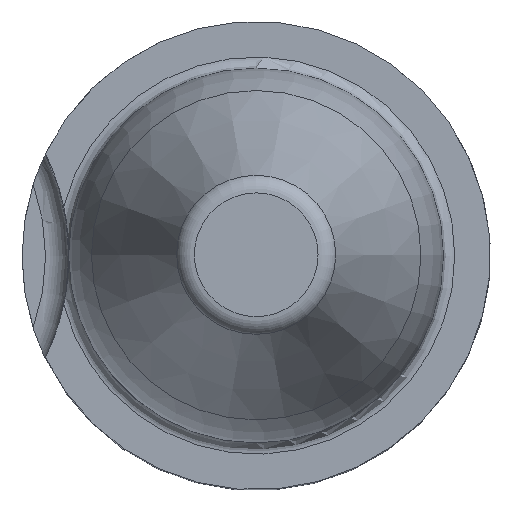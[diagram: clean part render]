
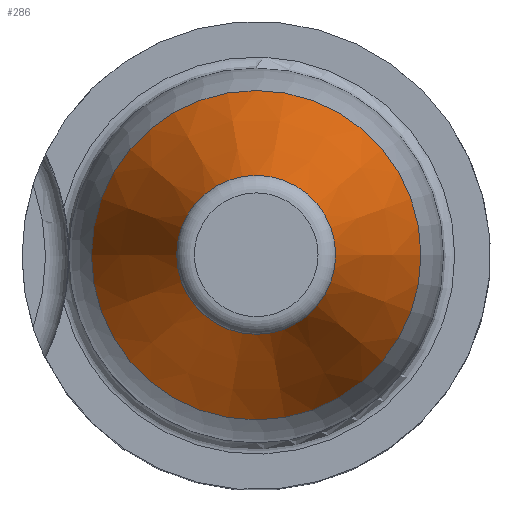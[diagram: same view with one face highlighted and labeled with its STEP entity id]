
A CAD part, top view. The second image highlights one B-rep face of the part: STEP entity #286.
In plain terms, the highlighted conical face has half-angle 20 degrees and reference radius 5.584 mm.
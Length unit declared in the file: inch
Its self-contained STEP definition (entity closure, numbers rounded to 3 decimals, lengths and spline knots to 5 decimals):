
#19 = CIRCLE ( 'NONE', #444, 0.21985 ) ;
#27 = EDGE_LOOP ( 'NONE', ( #50 ) ) ;
#39 = AXIS2_PLACEMENT_3D ( 'NONE', #440, #234, #157 ) ;
#50 = ORIENTED_EDGE ( 'NONE', *, *, #221, .F. ) ;
#86 = DIRECTION ( 'NONE',  ( -1., 0., 0. ) ) ;
#95 = VERTEX_POINT ( 'NONE', #232 ) ;
#140 = EDGE_CURVE ( 'NONE', #467, #467, #19, .T. ) ;
#157 = DIRECTION ( 'NONE',  ( 1., 0., 0. ) ) ;
#221 = EDGE_CURVE ( 'NONE', #95, #95, #333, .T. ) ;
#232 = CARTESIAN_POINT ( 'NONE',  ( 0.10609, 0., 0.58355 ) ) ;
#234 = DIRECTION ( 'NONE',  ( 0., 0., 1. ) ) ;
#243 = FACE_OUTER_BOUND ( 'NONE', #344, .T. ) ;
#269 = FACE_BOUND ( 'NONE', #27, .T. ) ;
#274 = CONICAL_SURFACE ( 'NONE', #400, 0.21985, 0.349 ) ;
#286 = ADVANCED_FACE ( 'NONE', ( #269, #243 ), #274, .T. ) ;
#296 = DIRECTION ( 'NONE',  ( 0., 0., 1. ) ) ;
#298 = CARTESIAN_POINT ( 'NONE',  ( 0., 0., 0.27101 ) ) ;
#329 = CARTESIAN_POINT ( 'NONE',  ( 0.21985, 0., 0.27101 ) ) ;
#333 = CIRCLE ( 'NONE', #39, 0.10609 ) ;
#344 = EDGE_LOOP ( 'NONE', ( #464 ) ) ;
#346 = CARTESIAN_POINT ( 'NONE',  ( 0., 0., 0.27101 ) ) ;
#400 = AXIS2_PLACEMENT_3D ( 'NONE', #346, #415, #86 ) ;
#404 = DIRECTION ( 'NONE',  ( 1., 0., 0. ) ) ;
#415 = DIRECTION ( 'NONE',  ( 0., 0., -1. ) ) ;
#440 = CARTESIAN_POINT ( 'NONE',  ( 0., 0., 0.58355 ) ) ;
#444 = AXIS2_PLACEMENT_3D ( 'NONE', #298, #296, #404 ) ;
#464 = ORIENTED_EDGE ( 'NONE', *, *, #140, .T. ) ;
#467 = VERTEX_POINT ( 'NONE', #329 ) ;
